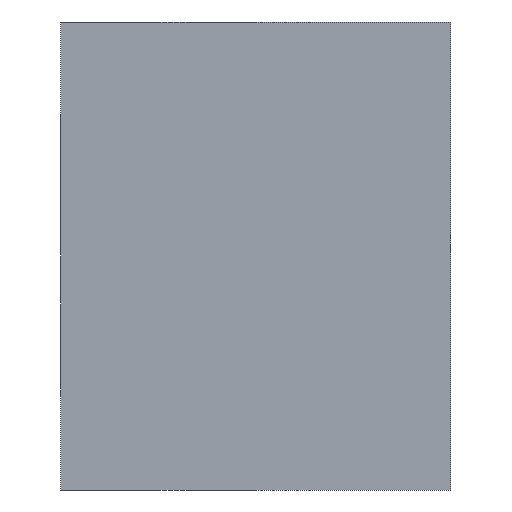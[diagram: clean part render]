
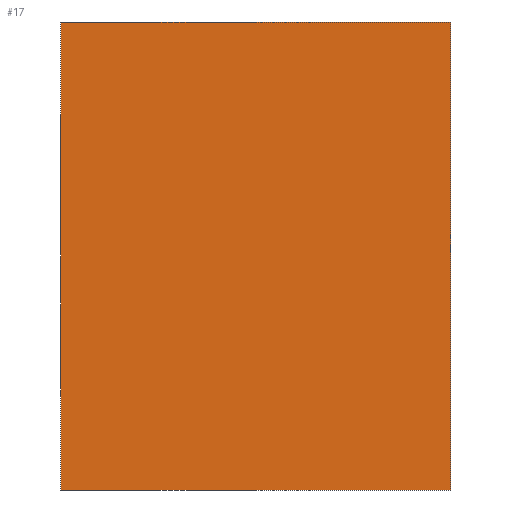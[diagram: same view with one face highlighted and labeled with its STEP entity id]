
A CAD part, left-side view. The second image highlights one B-rep face of the part: STEP entity #17.
In plain terms, the highlighted planar face has unit normal (-1, 0, 0).
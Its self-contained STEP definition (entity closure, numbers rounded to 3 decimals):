
#17 = ADVANCED_FACE('',(#18),#52,.F.);
#18 = FACE_BOUND('',#19,.F.);
#19 = EDGE_LOOP('',(#20,#30,#38,#46));
#20 = ORIENTED_EDGE('',*,*,#21,.F.);
#21 = EDGE_CURVE('',#22,#24,#26,.T.);
#22 = VERTEX_POINT('',#23);
#23 = CARTESIAN_POINT('',(7.25,-22.925,192.65));
#24 = VERTEX_POINT('',#25);
#25 = CARTESIAN_POINT('',(7.25,-22.925,198.65));
#26 = LINE('',#27,#28);
#27 = CARTESIAN_POINT('',(7.25,-22.925,192.65));
#28 = VECTOR('',#29,1.);
#29 = DIRECTION('',(0.,0.,1.));
#30 = ORIENTED_EDGE('',*,*,#31,.T.);
#31 = EDGE_CURVE('',#22,#32,#34,.T.);
#32 = VERTEX_POINT('',#33);
#33 = CARTESIAN_POINT('',(7.25,-17.925,192.65));
#34 = LINE('',#35,#36);
#35 = CARTESIAN_POINT('',(7.25,-22.925,192.65));
#36 = VECTOR('',#37,1.);
#37 = DIRECTION('',(0.,1.,0.));
#38 = ORIENTED_EDGE('',*,*,#39,.T.);
#39 = EDGE_CURVE('',#32,#40,#42,.T.);
#40 = VERTEX_POINT('',#41);
#41 = CARTESIAN_POINT('',(7.25,-17.925,198.65));
#42 = LINE('',#43,#44);
#43 = CARTESIAN_POINT('',(7.25,-17.925,192.65));
#44 = VECTOR('',#45,1.);
#45 = DIRECTION('',(0.,0.,1.));
#46 = ORIENTED_EDGE('',*,*,#47,.F.);
#47 = EDGE_CURVE('',#24,#40,#48,.T.);
#48 = LINE('',#49,#50);
#49 = CARTESIAN_POINT('',(7.25,-22.925,198.65));
#50 = VECTOR('',#51,1.);
#51 = DIRECTION('',(0.,1.,0.));
#52 = PLANE('',#53);
#53 = AXIS2_PLACEMENT_3D('',#54,#55,#56);
#54 = CARTESIAN_POINT('',(7.25,-22.925,192.65));
#55 = DIRECTION('',(1.,0.,0.));
#56 = DIRECTION('',(0.,0.,1.));
